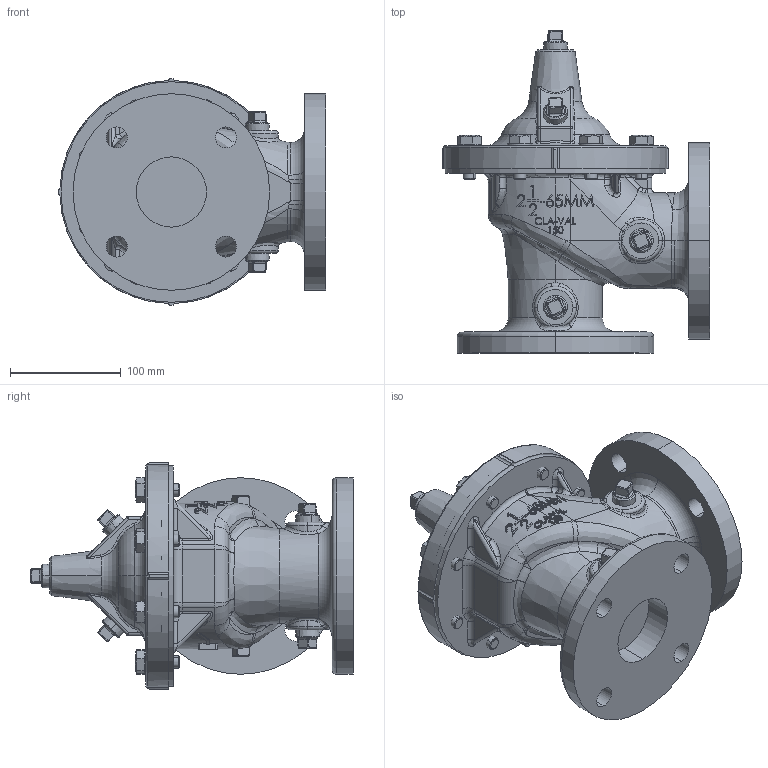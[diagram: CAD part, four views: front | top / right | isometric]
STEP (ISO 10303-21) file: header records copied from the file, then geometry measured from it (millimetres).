
FILE_DESCRIPTION (( 'STEP AP203' ), '1' );
FILE_NAME ('2.5in Hytrol 150AA.STEP', '2021-03-05T13:24:27', ( '' ), ( '' ), 'SwSTEP 2.0', 'SolidWorks 2019', '' );
FILE_SCHEMA (( 'CONFIG_CONTROL_DESIGN' ));
Length unit declared in the file: inch
Products named in the file (6): Bolt .438-14 UNC  (67606)_1.25 67606-03J; 2.5in Cover (no core)_Blue (NO-CORE); 2.5in Body HyAn150A STD_DUCTILE IRON; .500 NPT SQ HD PIPE PLUG (67660)_STEEL CP (FORGED); 2.5in Hytrol 150AA; WASHER, PLAIN FLAT FOR .4375 SCREW (67749)_316 SST
Assembly tree (25 placements, depth 2):
  2.5in Hytrol 150AA
    2.5in Body HyAn150A STD_DUCTILE IRON
    2.5in Cover (no core)_Blue (NO-CORE)
    Bolt .438-14 UNC  (67606)_1.25 67606-03J  x8
    .500 NPT SQ HD PIPE PLUG (67660)_STEEL CP (FORGED)  x7
    WASHER, PLAIN FLAT FOR .4375 SCREW (67749)_316 SST  x8
Bounding box: 242.05 x 291.59 x 204.7 mm (x, y, z)
Volume: 3801685.7 mm3; surface area: 391726.6 mm2
Topology: 25 solids, 25 shells, 1353 faces, 3198 edges, 1862 vertices
Faces by surface type: plane 357, bspline 347, cylinder 320, cone 157, sphere 96, torus 76
Entity records: 36250 total; most frequent: CARTESIAN_POINT 17703, ORIENTED_EDGE 3900, DIRECTION 3330, EDGE_CURVE 1950, AXIS2_PLACEMENT_3D 1341, VERTEX_POINT 1196, EDGE_LOOP 884, ADVANCED_FACE 798
